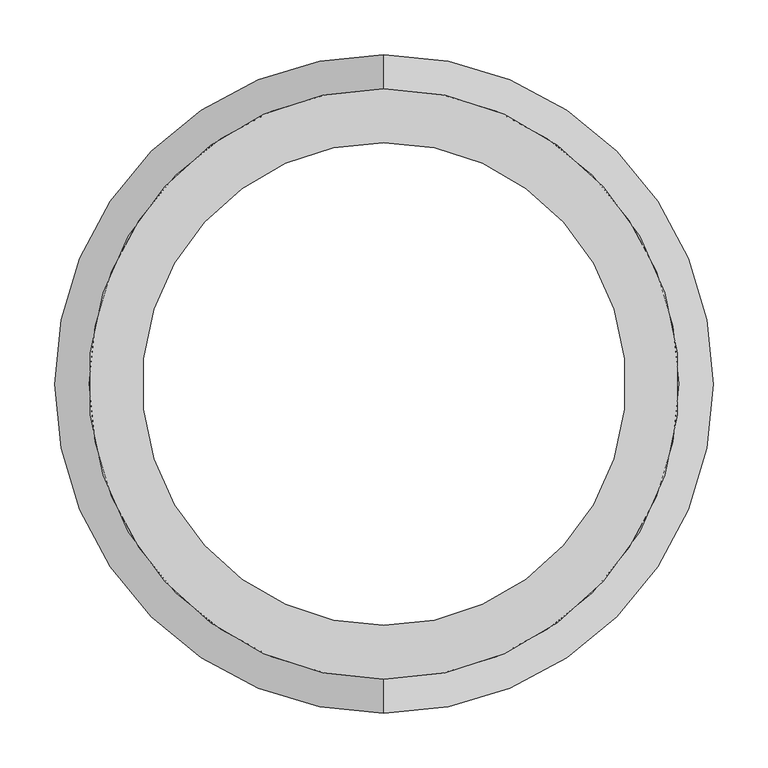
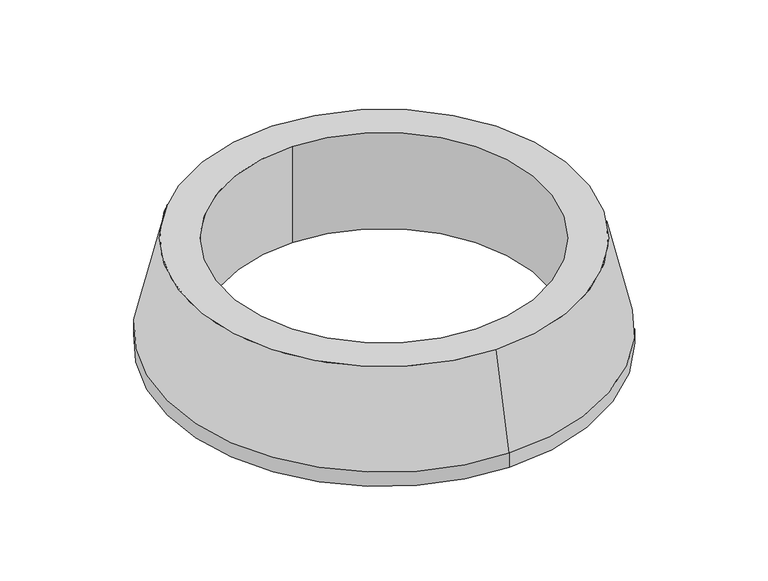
"""IFC4 building model written with IfcOpenShell, lengths in millimetres: valve geometry, Pipelife - Studnia PRO - Stożek odciążający 425 pod teleskop klasy D : Stożek odciążający T3 400N."""

from ifc_helpers import new_model, si_unit, frame, origin, place, context, project, spatial, polyline, circle_curve, source, transform, mapped, element, save
from ifc_brep_helpers import plane_surface, cylinder_surface, revolved_surface, advanced_brep


def valve_42a25ea8(model_context):
    return source(origin(), model_context, "Body", "AdvancedBrep", [
        advanced_brep(
        [(0.0, 269.0, 154.0), (0.0, -269.0, 154.0), (0.0, -220.0, 154.0), (0.0, 220.0, 154.0), (0.0, -300.0, 21.0), (0.0, 300.0, 21.0), (0.0, -220.0, 14.0), (0.0, 220.0, 14.0), (0.0, 300.0, 0.0), (0.0, -300.0, 0.0), (0.0, 253.0, 0.0), (0.0, -253.0, 0.0), (0.0, 253.0, 14.0), (0.0, -253.0, 14.0)],
        [
            (0, 1, circle_curve(frame((0.0, 0.0, 154.0), z_axis=(0.0, 0.0, 1.0), x_axis=(0.0, -1.0, 0.0)), 269.0)),
            (1, 0, circle_curve(frame((0.0, 0.0, 154.0), z_axis=(0.0, 0.0, 1.0), x_axis=(0.0, 1.0, 0.0)), 269.0)),
            (2, 3, circle_curve(frame((0.0, 0.0, 154.0), z_axis=(0.0, 0.0, -1.0), x_axis=(0.0, -1.0, 0.0)), 220.0)),
            (3, 2, circle_curve(frame((0.0, 0.0, 154.0), z_axis=(0.0, 0.0, -1.0), x_axis=(0.0, -1.0, 0.0)), 220.0)),
            (1, 4),
            (4, 5, circle_curve(frame((0.0, 0.0, 21.0), z_axis=(0.0, 0.0, 1.0), x_axis=(0.0, 1.0, 0.0)), 300.0)),
            (5, 0),
            (5, 4, circle_curve(frame((0.0, 0.0, 21.0), z_axis=(0.0, 0.0, 1.0), x_axis=(0.0, -1.0, 0.0)), 300.0)),
            (2, 6),
            (6, 7, circle_curve(frame((0.0, 0.0, 14.0), z_axis=(0.0, 0.0, -1.0), x_axis=(0.0, -1.0, 0.0)), 220.0)),
            (7, 3),
            (7, 6, circle_curve(frame((0.0, 0.0, 14.0), z_axis=(0.0, 0.0, -1.0), x_axis=(0.0, -1.0, 0.0)), 220.0)),
            (8, 9, circle_curve(frame((0.0, 0.0, 0.0), z_axis=(0.0, 0.0, -1.0), x_axis=(0.0, -1.0, 0.0)), 300.0)),
            (9, 8, circle_curve(frame((0.0, 0.0, 0.0), z_axis=(0.0, 0.0, -1.0), x_axis=(0.0, -1.0, 0.0)), 300.0)),
            (10, 11, circle_curve(frame((0.0, 0.0, 0.0), z_axis=(0.0, 0.0, 1.0), x_axis=(0.0, -1.0, 0.0)), 253.0)),
            (11, 10, circle_curve(frame((0.0, 0.0, 0.0), z_axis=(0.0, 0.0, 1.0), x_axis=(0.0, -1.0, 0.0)), 253.0)),
            (9, 4),
            (5, 8),
            (12, 13, circle_curve(frame((0.0, 0.0, 14.0), z_axis=(0.0, 0.0, -1.0), x_axis=(0.0, -1.0, 0.0)), 253.0)),
            (13, 12, circle_curve(frame((0.0, 0.0, 14.0), z_axis=(0.0, 0.0, -1.0), x_axis=(0.0, -1.0, 0.0)), 253.0)),
            (13, 11),
            (10, 12),
        ],
        [
            plane_surface(frame((0.0, 0.0, 154.0), z_axis=(0.0, 0.0, 1.0), x_axis=(1.0, 0.0, 0.0))),
            revolved_surface(polyline([(0.0, -269.0000000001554, 154.0), (0.0, -300.0, 21.0)]), (0.0, 0.0, 1308.0967742), (0.0, 0.0, -1.0)),
            revolved_surface(polyline([(0.0, 269.0000000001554, 154.0), (0.0, 300.0, 21.0)]), (0.0, 0.0, 1308.0967742), (0.0, 0.0, -1.0)),
            revolved_surface(polyline([(0.0, -220.0, 154.0), (0.0, -220.0, 14.0)]), (0.0, 0.0, 154.0), (0.0, 0.0, 1.0)),
            plane_surface(frame((0.0, 0.0, 0.0), z_axis=(0.0, 0.0, -1.0), x_axis=(0.0, -1.0, 0.0))),
            cylinder_surface(frame((0.0, 0.0, 21.0), z_axis=(0.0, 0.0, 1.0), x_axis=(0.0, -1.0, 0.0)), 300.0),
            plane_surface(frame((0.0, 0.0, 14.0), z_axis=(0.0, 0.0, -1.0), x_axis=(0.0, -1.0, 0.0))),
            revolved_surface(polyline([(0.0, -253.0, 14.0), (0.0, -253.0, 0.0)]), (0.0, 0.0, 14.0), (0.0, 0.0, 1.0)),
        ],
        [
            (0, [[1, 2], [3, 4]]),
            (1, [[-2, 5, 6, 7]]),
            (2, [[-1, -7, 8, -5]]),
            (3, [[9, 10, 11, -3]]),
            (3, [[-9, -4, -11, 12]]),
            (4, [[13, 14], [15, 16]]),
            (5, [[-14, 17, -8, 18]]),
            (5, [[-13, -18, -6, -17]]),
            (6, [[19, 20], [-10, -12]]),
            (7, [[-20, 21, -15, 22]]),
            (7, [[-19, -22, -16, -21]]),
        ],
    ),
    ])


if __name__ == "__main__":
    model = new_model("IFC4")
    model_context = context("Model", 3, world=origin())
    ifc_project = project(units=[si_unit("LENGTHUNIT", "METRE", prefix="MILLI")], contexts=[model_context])
    site = spatial("IfcSite", under=ifc_project)
    building = spatial("IfcBuilding", under=site)
    placement = place(None, origin())
    valve_shape = valve_42a25ea8(model_context)
    element("IfcValve", 1, ObjectType="Pipelife - Studnia PRO - Stożek odciążający 425 pod teleskop klasy D : Stożek odciążający T3 400N", at=placement, inside=building, context=model_context, shape_type="MappedRepresentation", body=[
        mapped(valve_shape, transform((0.0, 0.0, 0.0), x_axis=(1.0, 0.0, 0.0), y_axis=(0.0, 1.0, 0.0), z_axis=(0.0, 0.0, 1.0))),
    ])
    save(model, "model.ifc")
